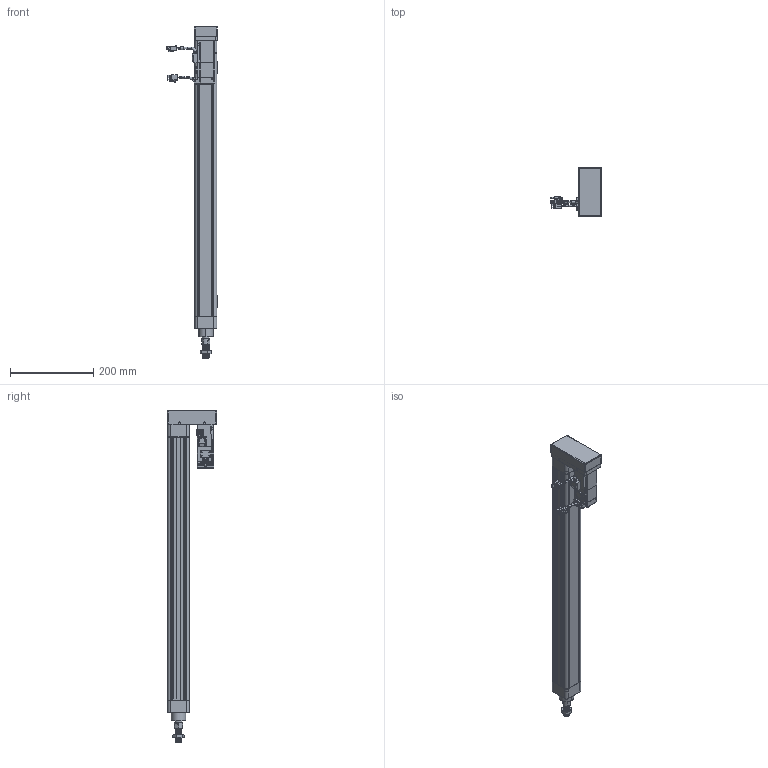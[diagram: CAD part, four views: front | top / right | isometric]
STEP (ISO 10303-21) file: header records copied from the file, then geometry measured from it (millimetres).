
FILE_DESCRIPTION (( 'STEP AP203' ), '1' );
FILE_NAME ('VEC50-10-C-550-MF-ZP10B-MS2.STEP', '2019-01-26T02:53:14', ( 'vobosh 6' ), ( 'Microsoft' ), 'SwSTEP 2.0', 'SolidWorks 2016', '' );
FILE_SCHEMA (( 'CONFIG_CONTROL_DESIGN' ));
Length unit declared in the file: millimetre
Products named in the file (12): VEC50-MF-200-011-X1; CS1-M; 鞠褒蹟譫M16x1.5; VEC50-MF-200-004-X1; VEC50-MF-200-001-X1; MHMF012L1V2; VEC50-MF-200-002-X1; VEC50-MF-200-005-X1; VEC50-MF-200-003-X1; VEC50-10-C-550-MF-ZP10B-MS2; 带尾螺母M6x9x45（镀镍）; 柈ч肣薦え耳9x耳8.5x4.4
Assembly tree (20 placements, depth 2):
  VEC50-10-C-550-MF-ZP10B-MS2
    VEC50-MF-200-001-X1
    VEC50-MF-200-002-X1
    VEC50-MF-200-003-X1
    带尾螺母M6x9x45（镀镍）  x8
    柈ч肣薦え耳9x耳8.5x4.4  x2
    VEC50-MF-200-011-X1
    CS1-M  x2
    鞠褒蹟譫M16x1.5
    VEC50-MF-200-004-X1
    MHMF012L1V2
    VEC50-MF-200-005-X1
Bounding box: 122.5 x 118 x 799 mm (x, y, z)
Volume: 1202162.7 mm3; surface area: 433895.5 mm2
Topology: 27 solids, 27 shells, 1970 faces, 4861 edges, 3048 vertices
Faces by surface type: plane 902, cylinder 703, cone 239, bspline 117, torus 9
Entity records: 59744 total; most frequent: CARTESIAN_POINT 16772, DIRECTION 8631, ORIENTED_EDGE 8630, EDGE_CURVE 4315, AXIS2_PLACEMENT_3D 2988, VERTEX_POINT 2755, LINE 2655, VECTOR 2655
